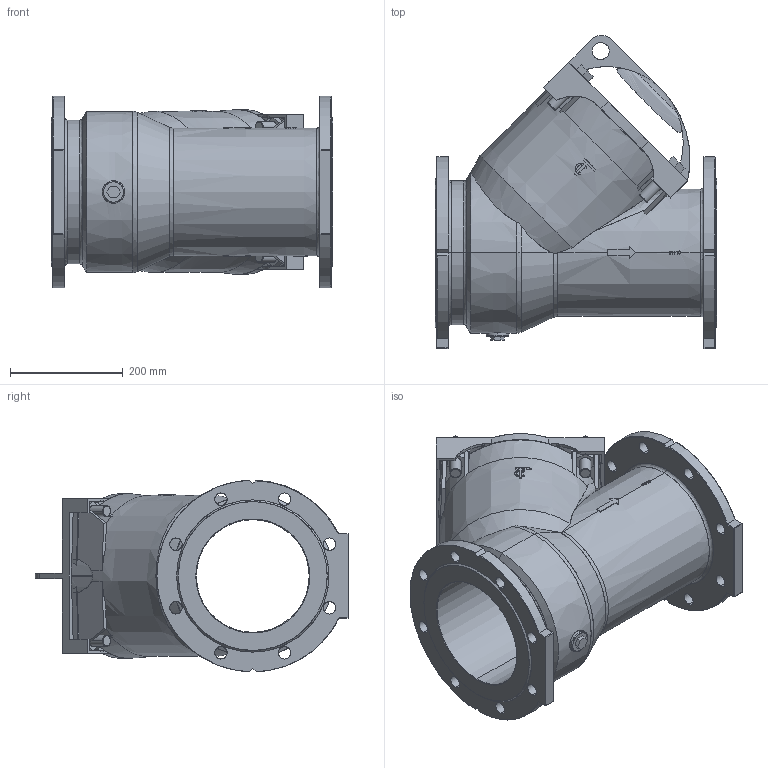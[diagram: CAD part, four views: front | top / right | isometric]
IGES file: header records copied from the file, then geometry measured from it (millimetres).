
Start section: SolidWorks IGES file using analytic representation for surfaces
Global section: file name: D:\part\3D Projects\CBL X240\DN 200\CBL DN200.IGS; native system: SolidWorks 2009; preprocessor: SolidWorks 2009; author: zhixin.zheng; date: 100512.105536; units: millimetre
Bounding box: 500 x 555.62 x 339.79 mm (x, y, z)
Surface area: 1272539.9 mm2 (no closed solid volume)
Topology: 0 solids, 0 shells, 555 faces, 5774 edges, 5772 vertices
Faces by surface type: bspline 395, revolution 160
